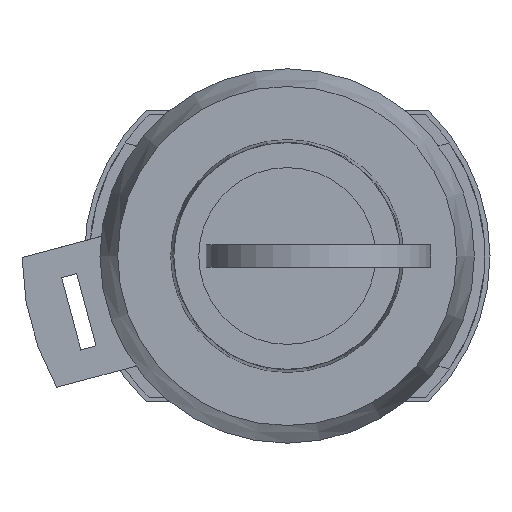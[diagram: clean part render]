
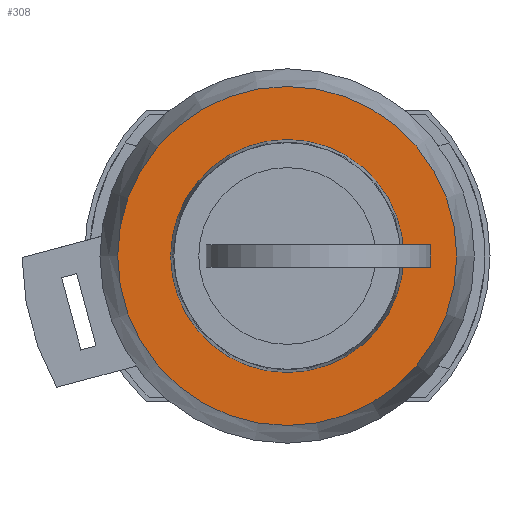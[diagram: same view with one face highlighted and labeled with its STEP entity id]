
A CAD part, left-side view. The second image highlights one B-rep face of the part: STEP entity #308.
In plain terms, the highlighted planar face has unit normal (-1, 0, 0).
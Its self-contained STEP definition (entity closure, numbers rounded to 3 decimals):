
#308 = ADVANCED_FACE ( 'NONE', ( #4122, #4114 ), #5909, .T. ) ;
#584 = ORIENTED_EDGE ( 'NONE', *, *, #1620, .F. ) ;
#590 = ORIENTED_EDGE ( 'NONE', *, *, #1609, .T. ) ;
#1609 = EDGE_CURVE ( 'NONE', #10404, #10404, #7994, .T. ) ;
#1620 = EDGE_CURVE ( 'NONE', #10408, #10408, #8010, .T. ) ;
#3169 = EDGE_LOOP ( 'NONE', ( #584 ) ) ;
#3172 = EDGE_LOOP ( 'NONE', ( #590 ) ) ;
#4114 = FACE_OUTER_BOUND ( 'NONE', #3169, .T. ) ;
#4122 = FACE_BOUND ( 'NONE', #3172, .T. ) ;
#5901 = CARTESIAN_POINT ( 'NONE',  ( 0., 13.75, 0. ) ) ;
#5909 = PLANE ( 'NONE',  #6339 ) ;
#5910 = DIRECTION ( 'NONE',  ( -1., 0., 0. ) ) ;
#5911 = DIRECTION ( 'NONE',  ( 0., 0., 1. ) ) ;
#6339 = AXIS2_PLACEMENT_3D ( 'NONE', #5901, #5910, #5911 ) ;
#6477 = AXIS2_PLACEMENT_3D ( 'NONE', #7603, #7609, #7610 ) ;
#6480 = AXIS2_PLACEMENT_3D ( 'NONE', #7626, #7638, #7639 ) ;
#7603 = CARTESIAN_POINT ( 'NONE',  ( 0., 0., 0. ) ) ;
#7609 = DIRECTION ( 'NONE',  ( 1., 0., 0. ) ) ;
#7610 = DIRECTION ( 'NONE',  ( 0., 1., 0. ) ) ;
#7626 = CARTESIAN_POINT ( 'NONE',  ( 0., 0., 0. ) ) ;
#7638 = DIRECTION ( 'NONE',  ( 1., 0., 0. ) ) ;
#7639 = DIRECTION ( 'NONE',  ( 0., 1., 0. ) ) ;
#7994 = CIRCLE ( 'NONE', #6477, 11.2 ) ;
#8010 = CIRCLE ( 'NONE', #6480, 16.3 ) ;
#10404 = VERTEX_POINT ( 'NONE', #10405 ) ;
#10405 = CARTESIAN_POINT ( 'NONE',  ( 0., 11.2, 0. ) ) ;
#10408 = VERTEX_POINT ( 'NONE', #10409 ) ;
#10409 = CARTESIAN_POINT ( 'NONE',  ( 0., 16.3, 0. ) ) ;
